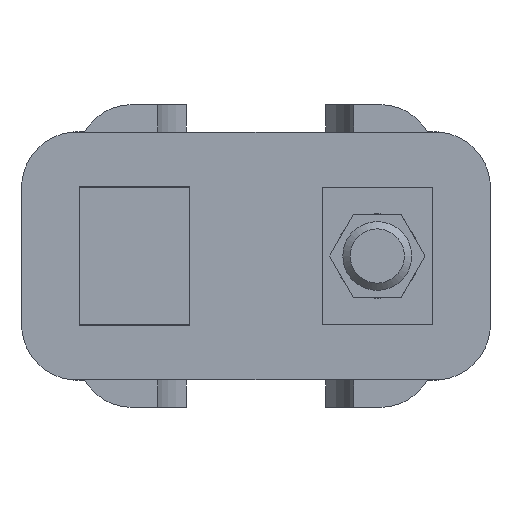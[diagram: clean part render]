
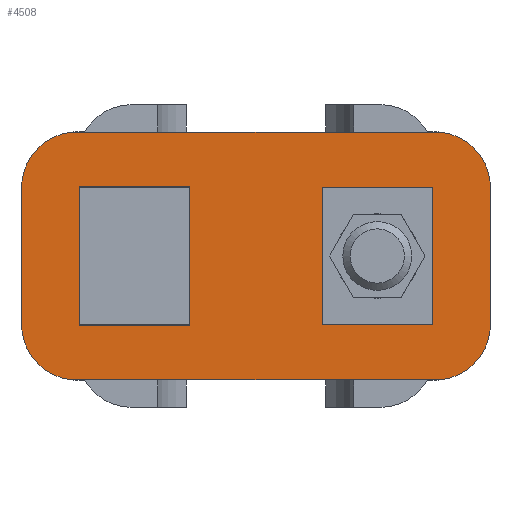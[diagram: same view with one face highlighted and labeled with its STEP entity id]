
A CAD part, front view. The second image highlights one B-rep face of the part: STEP entity #4508.
In plain terms, the highlighted planar face has unit normal (0, -1, 0).
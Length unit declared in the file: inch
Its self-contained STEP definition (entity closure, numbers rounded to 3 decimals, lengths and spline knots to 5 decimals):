
#58=PLANE('',#4814);
#247=CIRCLE('',#4815,0.25);
#248=CIRCLE('',#4816,0.25);
#249=CIRCLE('',#4817,0.25);
#250=CIRCLE('',#4818,0.25);
#410=ORIENTED_EDGE('',*,*,#1770,.F.);
#411=ORIENTED_EDGE('',*,*,#1771,.T.);
#412=ORIENTED_EDGE('',*,*,#1772,.F.);
#413=ORIENTED_EDGE('',*,*,#1773,.F.);
#414=ORIENTED_EDGE('',*,*,#1774,.T.);
#415=ORIENTED_EDGE('',*,*,#1775,.T.);
#416=ORIENTED_EDGE('',*,*,#1776,.F.);
#417=ORIENTED_EDGE('',*,*,#1777,.T.);
#418=ORIENTED_EDGE('',*,*,#1778,.F.);
#419=ORIENTED_EDGE('',*,*,#1779,.T.);
#420=ORIENTED_EDGE('',*,*,#1780,.T.);
#421=ORIENTED_EDGE('',*,*,#1781,.T.);
#422=ORIENTED_EDGE('',*,*,#1782,.F.);
#423=ORIENTED_EDGE('',*,*,#1783,.F.);
#424=ORIENTED_EDGE('',*,*,#1784,.F.);
#425=ORIENTED_EDGE('',*,*,#1785,.F.);
#1770=EDGE_CURVE('',#2450,#2451,#2893,.T.);
#1771=EDGE_CURVE('',#2450,#2452,#2894,.T.);
#1772=EDGE_CURVE('',#2453,#2452,#2895,.T.);
#1773=EDGE_CURVE('',#2451,#2453,#2896,.T.);
#1774=EDGE_CURVE('',#2454,#2455,#2897,.T.);
#1775=EDGE_CURVE('',#2455,#2456,#247,.F.);
#1776=EDGE_CURVE('',#2457,#2456,#2898,.T.);
#1777=EDGE_CURVE('',#2457,#2458,#248,.F.);
#1778=EDGE_CURVE('',#2459,#2458,#2899,.T.);
#1779=EDGE_CURVE('',#2459,#2460,#249,.F.);
#1780=EDGE_CURVE('',#2460,#2461,#2900,.T.);
#1781=EDGE_CURVE('',#2461,#2454,#250,.F.);
#1782=EDGE_CURVE('',#2462,#2463,#2901,.T.);
#1783=EDGE_CURVE('',#2464,#2462,#2902,.T.);
#1784=EDGE_CURVE('',#2465,#2464,#2903,.T.);
#1785=EDGE_CURVE('',#2463,#2465,#2904,.T.);
#2450=VERTEX_POINT('',#6563);
#2451=VERTEX_POINT('',#6564);
#2452=VERTEX_POINT('',#6566);
#2453=VERTEX_POINT('',#6568);
#2454=VERTEX_POINT('',#6571);
#2455=VERTEX_POINT('',#6572);
#2456=VERTEX_POINT('',#6574);
#2457=VERTEX_POINT('',#6576);
#2458=VERTEX_POINT('',#6578);
#2459=VERTEX_POINT('',#6580);
#2460=VERTEX_POINT('',#6582);
#2461=VERTEX_POINT('',#6584);
#2462=VERTEX_POINT('',#6587);
#2463=VERTEX_POINT('',#6588);
#2464=VERTEX_POINT('',#6590);
#2465=VERTEX_POINT('',#6592);
#2893=LINE('',#6562,#3408);
#2894=LINE('',#6565,#3409);
#2895=LINE('',#6567,#3410);
#2896=LINE('',#6569,#3411);
#2897=LINE('',#6570,#3412);
#2898=LINE('',#6575,#3413);
#2899=LINE('',#6579,#3414);
#2900=LINE('',#6583,#3415);
#2901=LINE('',#6586,#3416);
#2902=LINE('',#6589,#3417);
#2903=LINE('',#6591,#3418);
#2904=LINE('',#6593,#3419);
#3408=VECTOR('',#5247,39.37008);
#3409=VECTOR('',#5248,39.37008);
#3410=VECTOR('',#5249,39.37008);
#3411=VECTOR('',#5250,39.37008);
#3412=VECTOR('',#5251,39.37008);
#3413=VECTOR('',#5254,39.37008);
#3414=VECTOR('',#5257,39.37008);
#3415=VECTOR('',#5260,39.37008);
#3416=VECTOR('',#5263,39.37008);
#3417=VECTOR('',#5264,39.37008);
#3418=VECTOR('',#5265,39.37008);
#3419=VECTOR('',#5266,39.37008);
#3919=EDGE_LOOP('',(#410,#411,#412,#413));
#3920=EDGE_LOOP('',(#414,#415,#416,#417,#418,#419,#420,#421));
#3921=EDGE_LOOP('',(#422,#423,#424,#425));
#4182=FACE_BOUND('',#3919,.T.);
#4183=FACE_BOUND('',#3920,.T.);
#4184=FACE_BOUND('',#3921,.T.);
#4508=ADVANCED_FACE('',(#4182,#4183,#4184),#58,.F.);
#4814=AXIS2_PLACEMENT_3D('',#6561,#5245,#5246);
#4815=AXIS2_PLACEMENT_3D('',#6573,#5252,#5253);
#4816=AXIS2_PLACEMENT_3D('',#6577,#5255,#5256);
#4817=AXIS2_PLACEMENT_3D('',#6581,#5258,#5259);
#4818=AXIS2_PLACEMENT_3D('',#6585,#5261,#5262);
#5245=DIRECTION('',(0.,1.,0.));
#5246=DIRECTION('',(0.,0.,1.));
#5247=DIRECTION('',(0.,0.,-1.));
#5248=DIRECTION('',(1.,0.,0.));
#5249=DIRECTION('',(0.,0.,1.));
#5250=DIRECTION('',(1.,0.,0.));
#5251=DIRECTION('',(0.,0.,-1.));
#5252=DIRECTION('',(0.,1.,0.));
#5253=DIRECTION('',(0.,0.,1.));
#5254=DIRECTION('',(-1.,0.,0.));
#5255=DIRECTION('',(0.,1.,0.));
#5256=DIRECTION('',(0.,0.,1.));
#5257=DIRECTION('',(0.,0.,-1.));
#5258=DIRECTION('',(0.,1.,0.));
#5259=DIRECTION('',(0.,0.,1.));
#5260=DIRECTION('',(-1.,0.,0.));
#5261=DIRECTION('',(0.,1.,0.));
#5262=DIRECTION('',(0.,0.,1.));
#5263=DIRECTION('',(1.,0.,0.));
#5264=DIRECTION('',(0.,0.,-1.));
#5265=DIRECTION('',(-1.,0.,0.));
#5266=DIRECTION('',(0.,0.,1.));
#6561=CARTESIAN_POINT('',(2.125,0.,0.5625));
#6562=CARTESIAN_POINT('',(1.363,0.,0.5625));
#6563=CARTESIAN_POINT('',(1.363,0.,0.3125));
#6564=CARTESIAN_POINT('',(1.363,0.,-0.3125));
#6565=CARTESIAN_POINT('',(2.125,0.,0.3125));
#6566=CARTESIAN_POINT('',(1.863,0.,0.3125));
#6567=CARTESIAN_POINT('',(1.863,0.,0.5625));
#6568=CARTESIAN_POINT('',(1.863,0.,-0.3125));
#6569=CARTESIAN_POINT('',(2.125,0.,-0.3125));
#6570=CARTESIAN_POINT('',(0.,0.,0.5625));
#6571=CARTESIAN_POINT('',(0.,0.,0.33584));
#6572=CARTESIAN_POINT('',(0.,0.,-0.33584));
#6573=CARTESIAN_POINT('',(0.249,0.,-0.3135));
#6574=CARTESIAN_POINT('',(0.22666,0.,-0.5625));
#6575=CARTESIAN_POINT('',(2.125,0.,-0.5625));
#6576=CARTESIAN_POINT('',(1.89834,0.,-0.5625));
#6577=CARTESIAN_POINT('',(1.876,0.,-0.3135));
#6578=CARTESIAN_POINT('',(2.125,0.,-0.33584));
#6579=CARTESIAN_POINT('',(2.125,0.,0.5625));
#6580=CARTESIAN_POINT('',(2.125,0.,0.33584));
#6581=CARTESIAN_POINT('',(1.876,0.,0.3135));
#6582=CARTESIAN_POINT('',(1.89834,0.,0.5625));
#6583=CARTESIAN_POINT('',(2.125,0.,0.5625));
#6584=CARTESIAN_POINT('',(0.22666,0.,0.5625));
#6585=CARTESIAN_POINT('',(0.249,0.,0.3135));
#6586=CARTESIAN_POINT('',(2.125,0.,-0.3125));
#6587=CARTESIAN_POINT('',(0.26,0.,-0.3125));
#6588=CARTESIAN_POINT('',(0.76,0.,-0.3125));
#6589=CARTESIAN_POINT('',(0.26,0.,0.5625));
#6590=CARTESIAN_POINT('',(0.26,0.,0.3125));
#6591=CARTESIAN_POINT('',(2.125,0.,0.3125));
#6592=CARTESIAN_POINT('',(0.76,0.,0.3125));
#6593=CARTESIAN_POINT('',(0.76,0.,0.5625));
